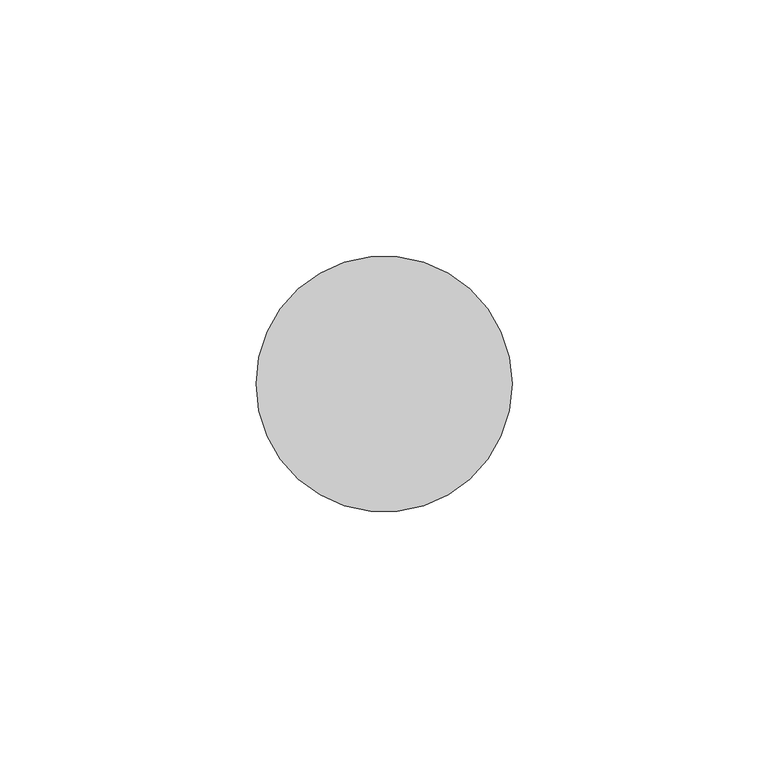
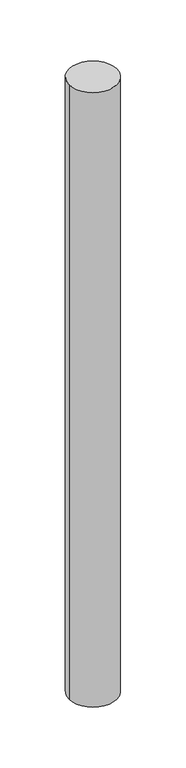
"""IFC4 building model written with IfcOpenShell, lengths in millimetres: member geometry, 圓形豎框 : 25mm 半徑."""

from ifc_helpers import new_model, si_unit, point, frame, origin, origin_2d, place, context, project, spatial, circle_curve, trimmed, segment, composite_curve, outline, extrude, source, transform, mapped, element, save


def member_37619b6b(model_context):
    return source(origin(), model_context, "Body", "SweptSolid", [
        extrude(outline(composite_curve([segment(trimmed(circle_curve(origin_2d(), 25.0), [point((25.0, 0.0))], [point((-25.0, 0.0))], False, "CARTESIAN"), True, "CONTINUOUS"), segment(trimmed(circle_curve(origin_2d(), 25.0), [point((-25.0, 0.0))], [point((25.0, 0.0))], False, "CARTESIAN"), True, "CONTINUOUS")], self_intersect=False)), frame((0.0, 0.0, -679.1138336), z_axis=(0.0, 0.0, 1.0), x_axis=(1.0, 0.0, 0.0)), (0.0, 0.0, 1.0), 679.1138336),
    ])


if __name__ == "__main__":
    model = new_model("IFC4")
    model_context = context("Model", 3, world=origin())
    ifc_project = project(units=[si_unit("LENGTHUNIT", "METRE", prefix="MILLI")], contexts=[model_context])
    site = spatial("IfcSite", under=ifc_project)
    building = spatial("IfcBuilding", under=site)
    placement = place(None, origin())
    member_shape = member_37619b6b(model_context)
    element("IfcMember", 1, ObjectType="圓形豎框 : 25mm 半徑", at=placement, inside=building, context=model_context, shape_type="MappedRepresentation", body=[
        mapped(member_shape, transform((0.0, 0.0, 0.0), x_axis=(1.0, 0.0, 0.0), y_axis=(0.0, 1.0, 0.0), z_axis=(0.0, 0.0, 1.0))),
    ])
    save(model, "model.ifc")
